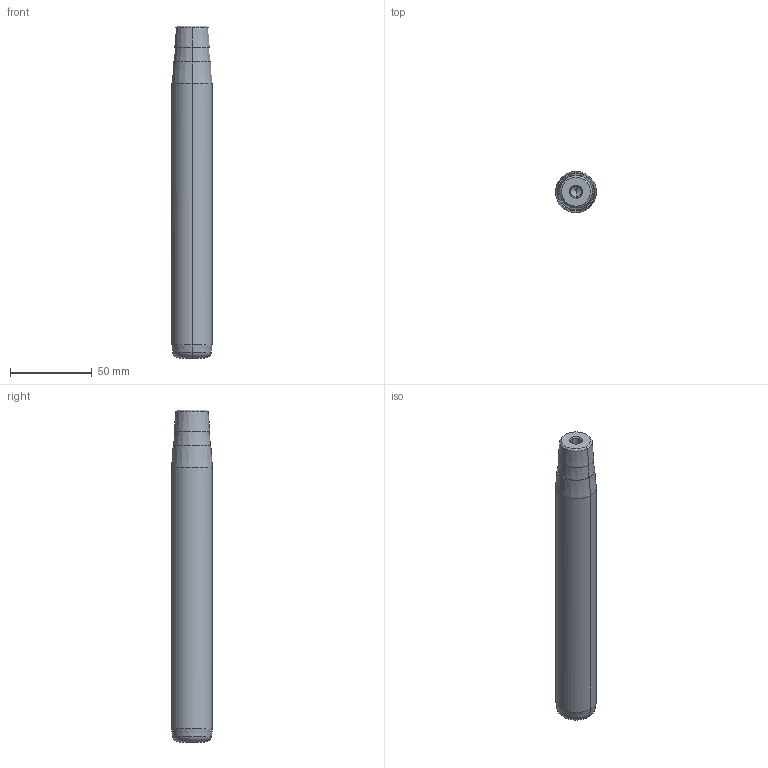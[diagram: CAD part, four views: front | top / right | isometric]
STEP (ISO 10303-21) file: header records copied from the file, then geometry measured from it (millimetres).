
FILE_DESCRIPTION(('CATIA V5 STEP Exchange'),'2;1');
FILE_NAME('C:\Users\Utente\Desktop\IO LAVORO\3D X SITO CF\X SITO\722\722-25x180x203.stp','2021-01-09T08:04:26+00:00',('none'),('none'),'CATIA Version 5 Release 20 GA (IN-10)','CATIA V5 STEP AP203','none');
FILE_SCHEMA(('CONFIG_CONTROL_DESIGN'));
Length unit declared in the file: millimetre
Products named in the file (1): 722-25x180x203
Bounding box: 25 x 25 x 203 mm (x, y, z)
Volume: 93707.1 mm3; surface area: 17330.1 mm2
Topology: 1 solids, 1 shells, 32 faces, 98 edges, 66 vertices
Faces by surface type: cone 22, cylinder 6, plane 2, torus 2
Entity records: 1166 total; most frequent: CARTESIAN_POINT 279, ORIENTED_EDGE 188, DIRECTION 148, EDGE_CURVE 94, AXIS2_PLACEMENT_3D 89, VERTEX_POINT 66, CIRCLE 56, EDGE_LOOP 34
